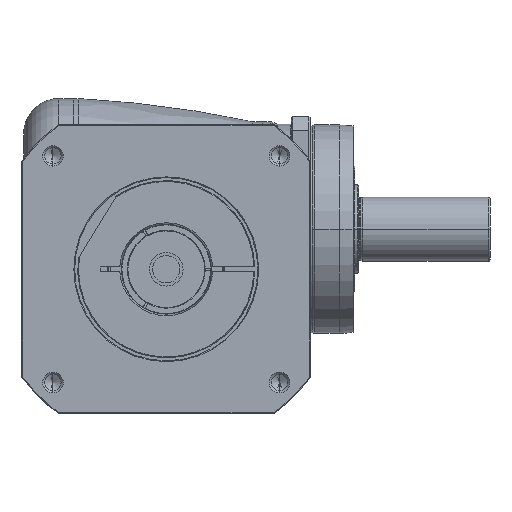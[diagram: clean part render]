
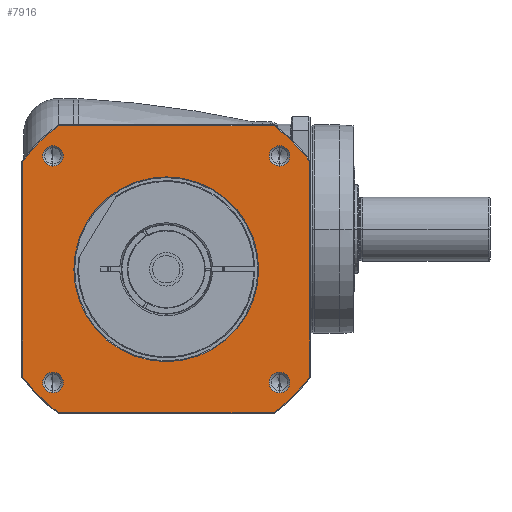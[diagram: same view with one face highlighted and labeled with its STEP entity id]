
A CAD part, front view. The second image highlights one B-rep face of the part: STEP entity #7916.
In plain terms, the highlighted planar face has unit normal (0, -1, 0) as drawn and (0, 0, 1) by its records, which use the part's own axes.
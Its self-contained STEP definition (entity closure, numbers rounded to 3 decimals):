
#6644=DIRECTION('',(1.,0.,0.));
#6645=VECTOR('',#6644,134.666);
#6646=CARTESIAN_POINT('',(-67.333,-89.5,54.));
#6647=LINE('',#6646,#6645);
#6657=CARTESIAN_POINT('',(0.,0.,54.));
#6658=DIRECTION('',(0.,0.,-1.));
#6659=DIRECTION('',(0.,-1.,0.));
#6660=AXIS2_PLACEMENT_3D('',#6657,#6658,#6659);
#6662=CARTESIAN_POINT('',(0.,0.,
54.));
#6663=DIRECTION('',(0.,0.,-1.));
#6664=DIRECTION('',(0.,1.,0.));
#6665=AXIS2_PLACEMENT_3D('',#6662,#6663,#6664);
#6667=CARTESIAN_POINT('',(0.,0.,54.));
#6668=DIRECTION('',(0.,0.,1.));
#6669=DIRECTION('',(-0.799,-0.601,0.));
#6670=AXIS2_PLACEMENT_3D('',#6667,#6668,#6669);
#6682=DIRECTION('',(0.,-1.,0.));
#6683=VECTOR('',#6682,134.666);
#6684=CARTESIAN_POINT('',(-89.5,67.333,54.));
#6685=LINE('',#6684,#6683);
#6695=CARTESIAN_POINT('',(0.,0.,54.));
#6696=DIRECTION('',(0.,0.,1.));
#6697=DIRECTION('',(-0.601,0.799,0.));
#6698=AXIS2_PLACEMENT_3D('',#6695,#6696,#6697);
#6723=DIRECTION('',(-1.,0.,0.));
#6724=VECTOR('',#6723,134.666);
#6725=CARTESIAN_POINT('',(67.333,89.5,54.));
#6726=LINE('',#6725,#6724);
#6731=CARTESIAN_POINT('',(0.,0.,54.));
#6732=DIRECTION('',(0.,0.,1.));
#6733=DIRECTION('',(0.799,0.601,0.));
#6734=AXIS2_PLACEMENT_3D('',#6731,#6732,#6733);
#6746=DIRECTION('',(0.,1.,0.));
#6747=VECTOR('',#6746,134.666);
#6748=CARTESIAN_POINT('',(89.5,-67.333,54.));
#6749=LINE('',#6748,#6747);
#6851=CARTESIAN_POINT('',(0.,0.,54.));
#6852=DIRECTION('',(0.,0.,1.));
#6853=DIRECTION('',(0.601,-0.799,0.));
#6854=AXIS2_PLACEMENT_3D('',#6851,#6852,#6853);
#7133=CARTESIAN_POINT('',(-70.711,70.711,54.));
#7134=DIRECTION('',(0.,0.,1.));
#7135=DIRECTION('',(-1.,0.,0.));
#7136=AXIS2_PLACEMENT_3D('',#7133,#7134,#7135);
#7151=CARTESIAN_POINT('',(-70.711,70.711,54.));
#7152=DIRECTION('',(0.,0.,1.));
#7153=DIRECTION('',(1.,0.,0.));
#7154=AXIS2_PLACEMENT_3D('',#7151,#7152,#7153);
#7187=CARTESIAN_POINT('',(70.711,70.711,54.));
#7188=DIRECTION('',(0.,0.,1.));
#7189=DIRECTION('',(-1.,0.,0.));
#7190=AXIS2_PLACEMENT_3D('',#7187,#7188,#7189);
#7205=CARTESIAN_POINT('',(70.711,70.711,54.));
#7206=DIRECTION('',(0.,0.,1.));
#7207=DIRECTION('',(1.,0.,0.));
#7208=AXIS2_PLACEMENT_3D('',#7205,#7206,#7207);
#7241=CARTESIAN_POINT('',(70.711,-70.711,54.));
#7242=DIRECTION('',(0.,0.,1.));
#7243=DIRECTION('',(-1.,0.,0.));
#7244=AXIS2_PLACEMENT_3D('',#7241,#7242,#7243);
#7259=CARTESIAN_POINT('',(70.711,-70.711,54.));
#7260=DIRECTION('',(0.,0.,1.));
#7261=DIRECTION('',(1.,0.,0.));
#7262=AXIS2_PLACEMENT_3D('',#7259,#7260,#7261);
#7295=CARTESIAN_POINT('',(-70.711,-70.711,54.));
#7296=DIRECTION('',(0.,0.,1.));
#7297=DIRECTION('',(-1.,0.,0.));
#7298=AXIS2_PLACEMENT_3D('',#7295,#7296,#7297);
#7313=CARTESIAN_POINT('',(-70.711,-70.711,54.));
#7314=DIRECTION('',(0.,0.,1.));
#7315=DIRECTION('',(1.,0.,0.));
#7316=AXIS2_PLACEMENT_3D('',#7313,#7314,#7315);
#7357=CARTESIAN_POINT('',(89.5,-67.333,54.));
#7358=CARTESIAN_POINT('',(89.5,67.333,54.));
#7359=VERTEX_POINT('',#7357);
#7360=VERTEX_POINT('',#7358);
#7365=CARTESIAN_POINT('',(67.333,-89.5,54.));
#7366=VERTEX_POINT('',#7365);
#7369=CARTESIAN_POINT('',(-67.333,-89.5,54.));
#7370=VERTEX_POINT('',#7369);
#7373=CARTESIAN_POINT('',(-89.5,-67.333,54.));
#7374=VERTEX_POINT('',#7373);
#7377=CARTESIAN_POINT('',(-89.5,67.333,54.));
#7378=VERTEX_POINT('',#7377);
#7381=CARTESIAN_POINT('',(-67.333,89.5,54.));
#7382=VERTEX_POINT('',#7381);
#7385=CARTESIAN_POINT('',(67.333,89.5,54.));
#7386=VERTEX_POINT('',#7385);
#7435=CARTESIAN_POINT('',(-77.111,70.711,54.));
#7436=CARTESIAN_POINT('',(-64.311,70.711,54.));
#7437=VERTEX_POINT('',#7435);
#7438=VERTEX_POINT('',#7436);
#7469=CARTESIAN_POINT('',(77.111,70.711,54.));
#7470=CARTESIAN_POINT('',(64.311,70.711,54.));
#7471=VERTEX_POINT('',#7469);
#7472=VERTEX_POINT('',#7470);
#7477=CARTESIAN_POINT('',(77.111,-70.711,54.));
#7478=CARTESIAN_POINT('',(64.311,-70.711,54.));
#7479=VERTEX_POINT('',#7477);
#7480=VERTEX_POINT('',#7478);
#7485=CARTESIAN_POINT('',(-64.311,-70.711,54.));
#7486=CARTESIAN_POINT('',(-77.111,-70.711,54.));
#7487=VERTEX_POINT('',#7485);
#7488=VERTEX_POINT('',#7486);
#7493=CARTESIAN_POINT('',(0.,-57.65,54.));
#7494=CARTESIAN_POINT('',(0.,57.65,54.));
#7495=VERTEX_POINT('',#7493);
#7496=VERTEX_POINT('',#7494);
#7864=CARTESIAN_POINT('',(0.,0.,54.));
#7865=DIRECTION('',(0.,0.,1.));
#7866=DIRECTION('',(1.,0.,0.));
#7867=AXIS2_PLACEMENT_3D('',#7864,#7865,#7866);
#7868=PLANE('',#7867);
#7870=ORIENTED_EDGE('',*,*,#7869,.F.);
#7872=ORIENTED_EDGE('',*,*,#7871,.F.);
#7874=ORIENTED_EDGE('',*,*,#7873,.F.);
#7876=ORIENTED_EDGE('',*,*,#7875,.F.);
#7878=ORIENTED_EDGE('',*,*,#7877,.F.);
#7880=ORIENTED_EDGE('',*,*,#7879,.F.);
#7882=ORIENTED_EDGE('',*,*,#7881,.F.);
#7883=ORIENTED_EDGE('',*,*,#7854,.F.);
#7884=EDGE_LOOP('',(#7870,#7872,#7874,#7876,#7878,#7880,#7882,#7883));
#7885=FACE_OUTER_BOUND('',#7884,.F.);
#7887=ORIENTED_EDGE('',*,*,#7886,.F.);
#7889=ORIENTED_EDGE('',*,*,#7888,.F.);
#7890=EDGE_LOOP('',(#7887,#7889));
#7891=FACE_BOUND('',#7890,.F.);
#7893=ORIENTED_EDGE('',*,*,#7892,.T.);
#7895=ORIENTED_EDGE('',*,*,#7894,.T.);
#7896=EDGE_LOOP('',(#7893,#7895));
#7897=FACE_BOUND('',#7896,.F.);
#7899=ORIENTED_EDGE('',*,*,#7898,.T.);
#7901=ORIENTED_EDGE('',*,*,#7900,.T.);
#7902=EDGE_LOOP('',(#7899,#7901));
#7903=FACE_BOUND('',#7902,.F.);
#7905=ORIENTED_EDGE('',*,*,#7904,.T.);
#7907=ORIENTED_EDGE('',*,*,#7906,.T.);
#7908=EDGE_LOOP('',(#7905,#7907));
#7909=FACE_BOUND('',#7908,.F.);
#7911=ORIENTED_EDGE('',*,*,#7910,.T.);
#7913=ORIENTED_EDGE('',*,*,#7912,.T.);
#7914=EDGE_LOOP('',(#7911,#7913));
#7915=FACE_BOUND('',#7914,.F.);
#7916=ADVANCED_FACE('',(#7885,#7891,#7897,#7903,#7909,#7915),#7868,.T.);
#6661=CIRCLE('',#6660,57.65);
#6666=CIRCLE('',#6665,57.65);
#6671=CIRCLE('',#6670,112.);
#6699=CIRCLE('',#6698,112.);
#6735=CIRCLE('',#6734,112.);
#6855=CIRCLE('',#6854,112.);
#7137=CIRCLE('',#7136,6.4);
#7155=CIRCLE('',#7154,6.4);
#7191=CIRCLE('',#7190,6.4);
#7209=CIRCLE('',#7208,6.4);
#7245=CIRCLE('',#7244,6.4);
#7263=CIRCLE('',#7262,6.4);
#7299=CIRCLE('',#7298,6.4);
#7317=CIRCLE('',#7316,6.4);
#7854=EDGE_CURVE('',#7370,#7366,#6647,.T.);
#7869=EDGE_CURVE('',#7374,#7370,#6671,.T.);
#7871=EDGE_CURVE('',#7378,#7374,#6685,.T.);
#7873=EDGE_CURVE('',#7382,#7378,#6699,.T.);
#7875=EDGE_CURVE('',#7386,#7382,#6726,.T.);
#7877=EDGE_CURVE('',#7360,#7386,#6735,.T.);
#7879=EDGE_CURVE('',#7359,#7360,#6749,.T.);
#7881=EDGE_CURVE('',#7366,#7359,#6855,.T.);
#7886=EDGE_CURVE('',#7495,#7496,#6661,.T.);
#7888=EDGE_CURVE('',#7496,#7495,#6666,.T.);
#7892=EDGE_CURVE('',#7437,#7438,#7137,.T.);
#7894=EDGE_CURVE('',#7438,#7437,#7155,.T.);
#7898=EDGE_CURVE('',#7472,#7471,#7191,.T.);
#7900=EDGE_CURVE('',#7471,#7472,#7209,.T.);
#7904=EDGE_CURVE('',#7480,#7479,#7245,.T.);
#7906=EDGE_CURVE('',#7479,#7480,#7263,.T.);
#7910=EDGE_CURVE('',#7488,#7487,#7299,.T.);
#7912=EDGE_CURVE('',#7487,#7488,#7317,.T.);
